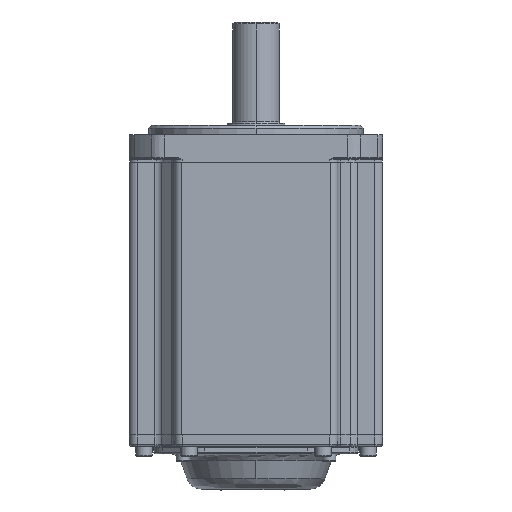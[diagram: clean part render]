
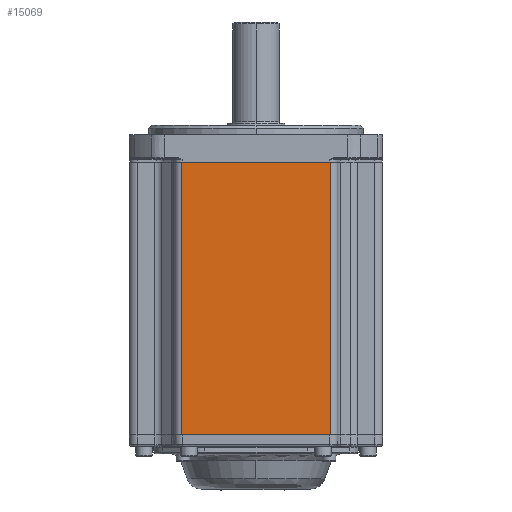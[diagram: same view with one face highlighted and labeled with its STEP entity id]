
A CAD part, front view. The second image highlights one B-rep face of the part: STEP entity #15069.
In plain terms, the highlighted planar face has unit normal (0, -1, 0).
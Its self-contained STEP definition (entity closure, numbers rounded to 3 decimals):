
#1188 = LINE ( 'NONE', #45846, #13165 ) ;
#2261 = VECTOR ( 'NONE', #33318, 1000. ) ;
#2315 = DIRECTION ( 'NONE',  ( 1., 0., 0. ) ) ;
#2644 = EDGE_CURVE ( 'NONE', #31791, #52680, #18047, .T. ) ;
#4097 = CARTESIAN_POINT ( 'NONE',  ( -42., -65., 907.8 ) ) ;
#4507 = CARTESIAN_POINT ( 'NONE',  ( 38., -65., 907.8 ) ) ;
#9058 = ORIENTED_EDGE ( 'NONE', *, *, #2644, .T. ) ;
#10340 = CARTESIAN_POINT ( 'NONE',  ( 38., -65., -92.2 ) ) ;
#13165 = VECTOR ( 'NONE', #2315, 1000. ) ;
#15069 = ADVANCED_FACE ( 'NONE', ( #19844 ), #28312, .F. ) ;
#15658 = LINE ( 'NONE', #39747, #45744 ) ;
#17113 = CARTESIAN_POINT ( 'NONE',  ( 38., -65., 47.8 ) ) ;
#17304 = VERTEX_POINT ( 'NONE', #51643 ) ;
#18047 = LINE ( 'NONE', #4507, #2261 ) ;
#18352 = DIRECTION ( 'NONE',  ( 1., 0., 0. ) ) ;
#19844 = FACE_OUTER_BOUND ( 'NONE', #55481, .T. ) ;
#24046 = EDGE_CURVE ( 'NONE', #17304, #31791, #30704, .T. ) ;
#25248 = EDGE_CURVE ( 'NONE', #29847, #17304, #15658, .T. ) ;
#28312 = PLANE ( 'NONE',  #29324 ) ;
#29324 = AXIS2_PLACEMENT_3D ( 'NONE', #4097, #61986, #33121 ) ;
#29847 = VERTEX_POINT ( 'NONE', #34606 ) ;
#30524 = ORIENTED_EDGE ( 'NONE', *, *, #41068, .F. ) ;
#30704 = LINE ( 'NONE', #32192, #41209 ) ;
#31791 = VERTEX_POINT ( 'NONE', #10340 ) ;
#32192 = CARTESIAN_POINT ( 'NONE',  ( -42., -65., -92.2 ) ) ;
#33121 = DIRECTION ( 'NONE',  ( 0., 0., 1. ) ) ;
#33318 = DIRECTION ( 'NONE',  ( 0., 0., 1. ) ) ;
#34606 = CARTESIAN_POINT ( 'NONE',  ( -38., -65., 47.8 ) ) ;
#39747 = CARTESIAN_POINT ( 'NONE',  ( -38., -65., 907.8 ) ) ;
#41068 = EDGE_CURVE ( 'NONE', #29847, #52680, #1188, .T. ) ;
#41209 = VECTOR ( 'NONE', #18352, 1000. ) ;
#45744 = VECTOR ( 'NONE', #53876, 1000. ) ;
#45846 = CARTESIAN_POINT ( 'NONE',  ( -42., -65., 47.8 ) ) ;
#50493 = ORIENTED_EDGE ( 'NONE', *, *, #25248, .T. ) ;
#51643 = CARTESIAN_POINT ( 'NONE',  ( -38., -65., -92.2 ) ) ;
#52680 = VERTEX_POINT ( 'NONE', #17113 ) ;
#53876 = DIRECTION ( 'NONE',  ( 0., 0., -1. ) ) ;
#55481 = EDGE_LOOP ( 'NONE', ( #30524, #50493, #60135, #9058 ) ) ;
#60135 = ORIENTED_EDGE ( 'NONE', *, *, #24046, .T. ) ;
#61986 = DIRECTION ( 'NONE',  ( 0., 1., 0. ) ) ;
